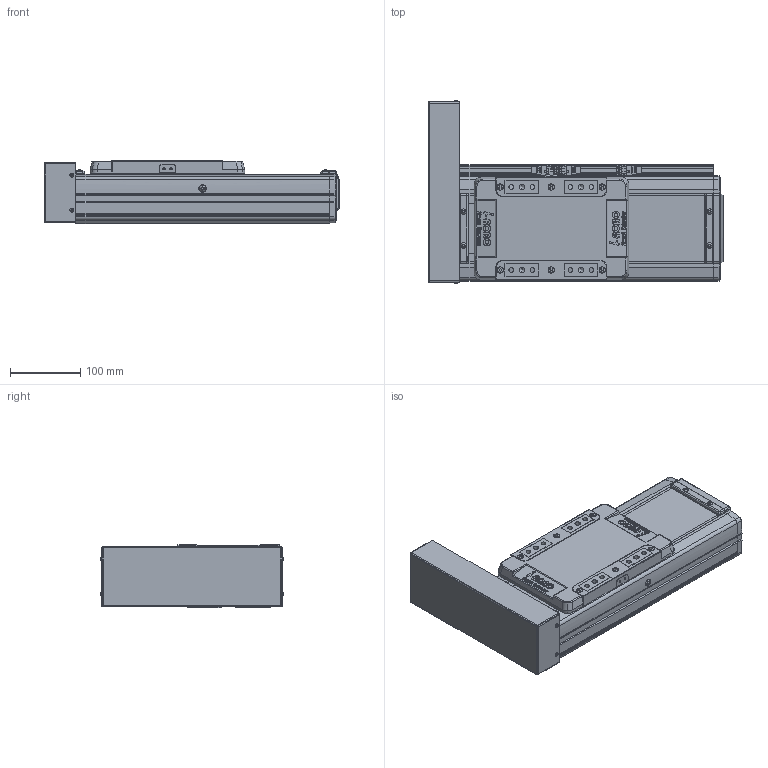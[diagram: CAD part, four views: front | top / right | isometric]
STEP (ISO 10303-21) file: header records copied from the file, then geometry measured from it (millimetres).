
FILE_DESCRIPTION(('STEP AP214'),'1');
FILE_NAME('Z:/Web/3D/SAN150/2013.04 (STP.)/SAN150ㅁㅁ-100PL+3SL.stp','2013-05-08T02:41:48',(' '),(' '),'Spatial InterOp 3D',' ',' ');
FILE_SCHEMA(('automotive_design'));
Length unit declared in the file: millimetre
Products named in the file (56): SLBL-SAN150; SLCV-SAN150; FHCS M4.0 x 8.0; BHCS M4.0 x 10.0; SFX-SAN150; RRCV-SAN150; FRBL-SAN150; Spacer; RN15; FRCV-SAN150; Screw 20; BASE-SAN150-000L ; SUS COVER; 스크루 : Round - M5.0 x 6.0; BHCS M3.0 x 6.0; P; M3.0 x 6.0; SRL-16x17-360L; SGD-SAN150; EE-SX674; SBK-SX674-352; 스크루 : Round - M3.0 x 6.0
Bounding box: 420 x 260.73 x 90 mm (x, y, z)
Volume: 3743969.8 mm3; surface area: 658186.6 mm2
Topology: 56 solids, 56 shells, 2508 faces, 6453 edges, 4154 vertices
Faces by surface type: plane 1362, cylinder 799, cone 238, sphere 76, bspline 21, torus 12
Entity records: 98876 total; most frequent: CARTESIAN_POINT 15293, DIRECTION 13628, ORIENTED_EDGE 12706, EDGE_CURVE 6353, AXIS2_PLACEMENT_3D 4796, VERTEX_POINT 4154, LINE 4036, VECTOR 4036
